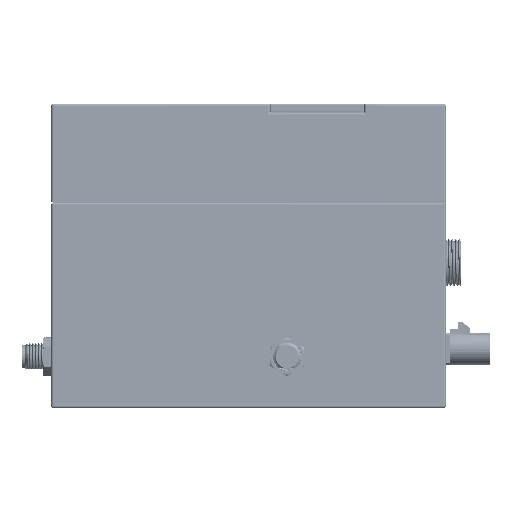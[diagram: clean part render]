
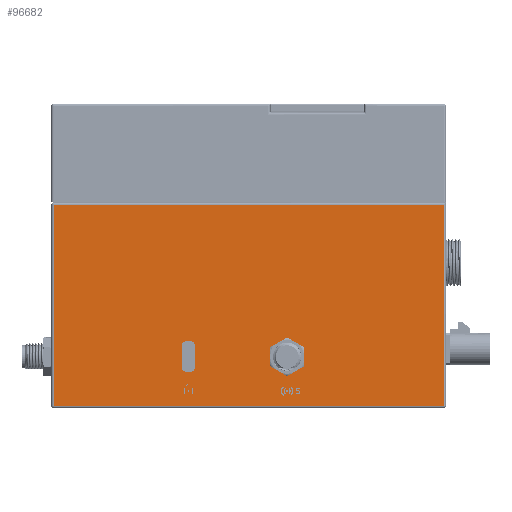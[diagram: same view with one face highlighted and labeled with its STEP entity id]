
A CAD part, left-side view. The second image highlights one B-rep face of the part: STEP entity #96682.
In plain terms, the highlighted planar face has unit normal (-1, 0, 0).
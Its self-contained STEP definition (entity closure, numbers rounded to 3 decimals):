
#4063=FACE_BOUND('',#31809,.T.);
#4064=FACE_BOUND('',#31810,.T.);
#5645=LINE('',#136022,#15883);
#5649=LINE('',#136031,#15887);
#5665=LINE('',#136150,#15903);
#5667=LINE('',#136155,#15905);
#5669=LINE('',#136158,#15907);
#5671=LINE('',#136161,#15909);
#5690=LINE('',#136212,#15928);
#5691=LINE('',#136216,#15929);
#5692=LINE('',#136218,#15930);
#15883=VECTOR('',#110516,10.);
#15887=VECTOR('',#110526,10.);
#15903=VECTOR('',#110664,10.);
#15905=VECTOR('',#110670,10.);
#15907=VECTOR('',#110674,10.);
#15909=VECTOR('',#110678,10.);
#15928=VECTOR('',#110727,10.);
#15929=VECTOR('',#110730,10.);
#15930=VECTOR('',#110733,10.);
#26153=FACE_OUTER_BOUND('',#31808,.T.);
#31808=EDGE_LOOP('',(#64406,#64407,#64408,#64409));
#31809=EDGE_LOOP('',(#64410,#64411,#64412,#64413,#64414,#64415,#64416,#64417));
#31810=EDGE_LOOP('',(#64418,#64419));
#37634=CIRCLE('',#102813,3.2);
#37635=CIRCLE('',#102816,1.);
#37636=CIRCLE('',#102819,1.);
#37683=CIRCLE('',#102898,1.);
#37684=CIRCLE('',#102899,1.);
#40239=VERTEX_POINT('',#136013);
#40240=VERTEX_POINT('',#136015);
#40241=VERTEX_POINT('',#136019);
#40242=VERTEX_POINT('',#136021);
#40243=VERTEX_POINT('',#136025);
#40244=VERTEX_POINT('',#136029);
#40245=VERTEX_POINT('',#136033);
#40279=VERTEX_POINT('',#136123);
#40283=VERTEX_POINT('',#136134);
#40284=VERTEX_POINT('',#136141);
#40286=VERTEX_POINT('',#136149);
#40304=VERTEX_POINT('',#136211);
#40305=VERTEX_POINT('',#136213);
#40306=VERTEX_POINT('',#136215);
#49669=EDGE_CURVE('',#40240,#40239,#37634,.T.);
#49672=EDGE_CURVE('',#40242,#40241,#5645,.T.);
#49675=EDGE_CURVE('',#40241,#40243,#37635,.T.);
#49677=EDGE_CURVE('',#40243,#40244,#5649,.T.);
#49679=EDGE_CURVE('',#40244,#40245,#37636,.T.);
#49734=EDGE_CURVE('',#40286,#40284,#5665,.T.);
#49737=EDGE_CURVE('',#40284,#40283,#5667,.T.);
#49739=EDGE_CURVE('',#40279,#40286,#5669,.T.);
#49741=EDGE_CURVE('',#40283,#40279,#5671,.T.);
#49767=EDGE_CURVE('',#40245,#40304,#5690,.T.);
#49768=EDGE_CURVE('',#40304,#40305,#37683,.T.);
#49769=EDGE_CURVE('',#40305,#40306,#5691,.T.);
#49770=EDGE_CURVE('',#40306,#40242,#37684,.T.);
#49771=EDGE_CURVE('',#40239,#40240,#5692,.T.);
#64406=ORIENTED_EDGE('',*,*,#49734,.F.);
#64407=ORIENTED_EDGE('',*,*,#49739,.F.);
#64408=ORIENTED_EDGE('',*,*,#49741,.F.);
#64409=ORIENTED_EDGE('',*,*,#49737,.F.);
#64410=ORIENTED_EDGE('',*,*,#49767,.T.);
#64411=ORIENTED_EDGE('',*,*,#49768,.T.);
#64412=ORIENTED_EDGE('',*,*,#49769,.T.);
#64413=ORIENTED_EDGE('',*,*,#49770,.T.);
#64414=ORIENTED_EDGE('',*,*,#49672,.T.);
#64415=ORIENTED_EDGE('',*,*,#49675,.T.);
#64416=ORIENTED_EDGE('',*,*,#49677,.T.);
#64417=ORIENTED_EDGE('',*,*,#49679,.T.);
#64418=ORIENTED_EDGE('',*,*,#49771,.T.);
#64419=ORIENTED_EDGE('',*,*,#49669,.T.);
#93340=PLANE('',#102897);
#96682=ADVANCED_FACE('',(#26153,#4063,#4064),#93340,.T.);
#102813=AXIS2_PLACEMENT_3D('',#136016,#110510,#110511);
#102816=AXIS2_PLACEMENT_3D('',#136027,#110521,#110522);
#102819=AXIS2_PLACEMENT_3D('',#136035,#110530,#110531);
#102897=AXIS2_PLACEMENT_3D('',#136210,#110725,#110726);
#102898=AXIS2_PLACEMENT_3D('',#136214,#110728,#110729);
#102899=AXIS2_PLACEMENT_3D('',#136217,#110731,#110732);
#110510=DIRECTION('center_axis',(1.,0.,0.));
#110511=DIRECTION('ref_axis',(0.,1.,0.));
#110516=DIRECTION('',(0.,0.,-1.));
#110521=DIRECTION('center_axis',(1.,0.,0.));
#110522=DIRECTION('ref_axis',(0.,-1.,0.));
#110526=DIRECTION('',(0.,1.,0.));
#110530=DIRECTION('center_axis',(1.,0.,0.));
#110531=DIRECTION('ref_axis',(0.,0.,-1.));
#110664=DIRECTION('',(0.,0.,-1.));
#110670=DIRECTION('',(0.,1.,0.));
#110674=DIRECTION('',(0.,-1.,0.));
#110678=DIRECTION('',(0.,0.,1.));
#110725=DIRECTION('center_axis',(-1.,0.,0.));
#110726=DIRECTION('ref_axis',(0.,-1.,0.));
#110727=DIRECTION('',(0.,0.,1.));
#110728=DIRECTION('center_axis',(1.,0.,0.));
#110729=DIRECTION('ref_axis',(0.,1.,0.));
#110730=DIRECTION('',(0.,-1.,0.));
#110731=DIRECTION('center_axis',(1.,0.,0.));
#110732=DIRECTION('ref_axis',(0.,0.,1.));
#110733=DIRECTION('',(0.,-1.,0.));
#136013=CARTESIAN_POINT('',(-59.,-7.545,14.85));
#136015=CARTESIAN_POINT('',(-59.,-10.455,14.85));
#136016=CARTESIAN_POINT('Origin',(-59.,-9.,12.));
#136019=CARTESIAN_POINT('',(-59.,12.5,9.5));
#136021=CARTESIAN_POINT('',(-59.,12.5,14.6));
#136022=CARTESIAN_POINT('',(-59.,12.5,4.75));
#136025=CARTESIAN_POINT('',(-59.,13.5,8.5));
#136027=CARTESIAN_POINT('Origin',(-59.,13.5,9.5));
#136029=CARTESIAN_POINT('',(-59.,14.6,8.5));
#136031=CARTESIAN_POINT('',(-59.,30.3,8.5));
#136033=CARTESIAN_POINT('',(-59.,15.6,9.5));
#136035=CARTESIAN_POINT('Origin',(-59.,14.6,9.5));
#136123=CARTESIAN_POINT('',(-59.,45.5,47.5));
#136134=CARTESIAN_POINT('',(-59.,45.5,0.5));
#136141=CARTESIAN_POINT('',(-59.,-45.5,0.5));
#136149=CARTESIAN_POINT('',(-59.,-45.5,47.5));
#136150=CARTESIAN_POINT('',(-59.,-45.5,0.));
#136155=CARTESIAN_POINT('',(-59.,23.,0.5));
#136158=CARTESIAN_POINT('',(-59.,23.,47.5));
#136161=CARTESIAN_POINT('',(-59.,45.5,0.));
#136210=CARTESIAN_POINT('Origin',(-59.,46.,0.));
#136211=CARTESIAN_POINT('',(-59.,15.6,14.6));
#136212=CARTESIAN_POINT('',(-59.,15.6,7.3));
#136213=CARTESIAN_POINT('',(-59.,14.6,15.6));
#136214=CARTESIAN_POINT('Origin',(-59.,14.6,14.6));
#136215=CARTESIAN_POINT('',(-59.,13.5,15.6));
#136216=CARTESIAN_POINT('',(-59.,29.75,15.6));
#136217=CARTESIAN_POINT('Origin',(-59.,13.5,14.6));
#136218=CARTESIAN_POINT('',(-59.,17.772,14.85));
